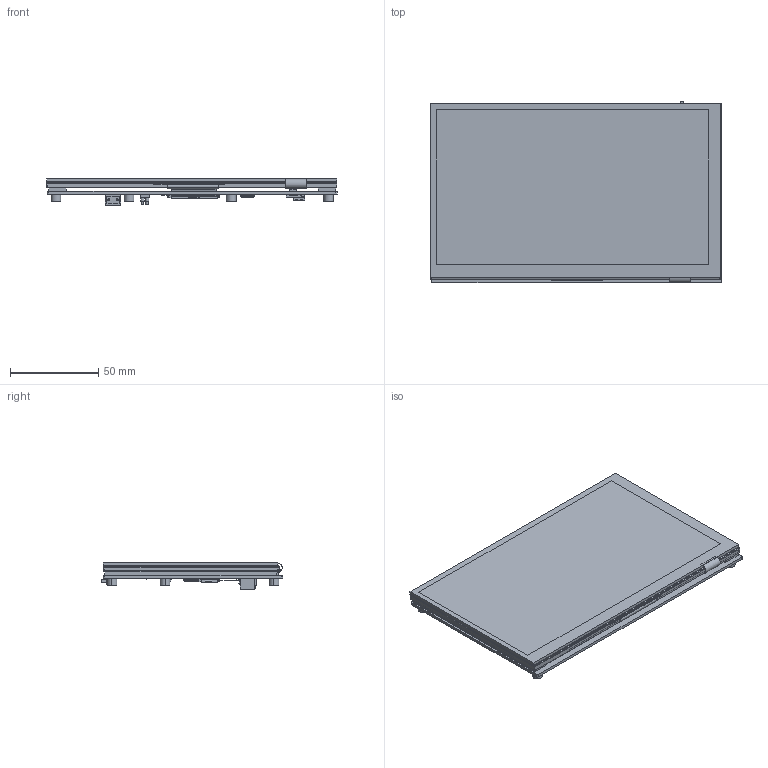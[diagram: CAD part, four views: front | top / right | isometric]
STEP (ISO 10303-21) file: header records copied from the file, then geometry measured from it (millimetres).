
FILE_DESCRIPTION (( 'STEP AP214' ), '1' );
FILE_NAME ('ER-TFTV070A3-1.STEP', '2024-07-16T06:19:25', ( '微软用户' ), ( '微软中国' ), 'SwSTEP 2.0', 'SolidWorks 2023', '' );
FILE_SCHEMA (( 'AUTOMOTIVE_DESIGN' ));
Length unit declared in the file: millimetre
Products named in the file (8): 拨动开关; ER-TFT070A3-1_TFT 屏; 12X4_IC; 15P连接器+IC; PCBA Board; ZIF Connector_50P; ZIF Connector_6P; ER-TFTV070A3-1
Assembly tree (7 placements, depth 2):
  ER-TFTV070A3-1
    ER-TFT070A3-1_TFT 屏
    PCBA Board
    ZIF Connector_50P
    ZIF Connector_6P
    拨动开关
    15P连接器+IC
    12X4_IC
Bounding box: 165.23 x 103.12 x 15 mm (x, y, z)
Volume: 78313.2 mm3; surface area: 157921.3 mm2
Topology: 164 solids, 165 shells, 5911 faces, 17182 edges, 11089 vertices
Faces by surface type: plane 4731, cylinder 702, bspline 472, torus 6
Entity records: 279301 total; most frequent: CARTESIAN_POINT 61166, ORIENTED_EDGE 34340, DIRECTION 28524, EDGE_CURVE 17170, VECTOR 14846, LINE 14846, VERTEX_POINT 11089, AXIS2_PLACEMENT_3D 6839
